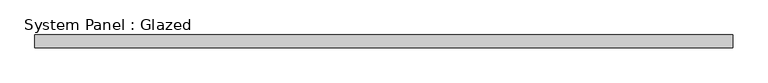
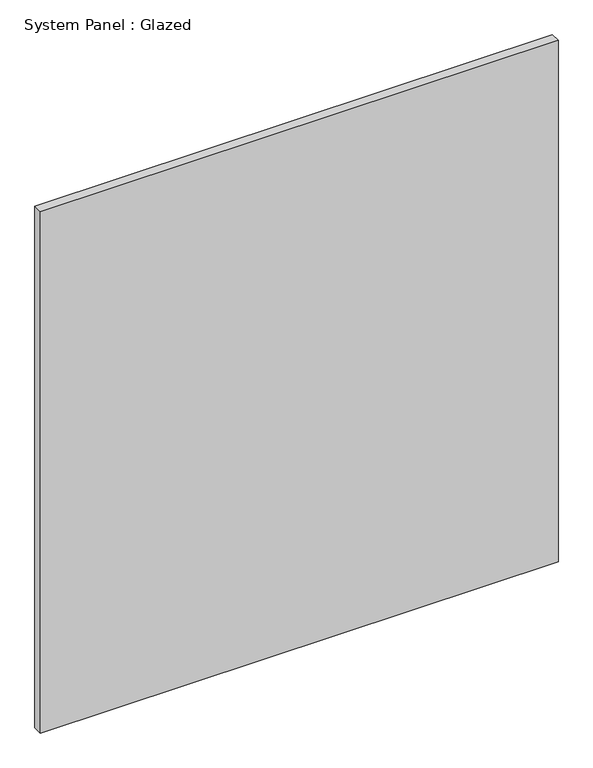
"""IFC4 building model written with IfcOpenShell, lengths in millimetres: plate geometry, System Panel : Glazed."""

import ifcopenshell
import ifcopenshell.guid

model = None  # the IFC model being written
_history = None  # IfcOwnerHistory: only IFC2X3 demands one
_inside = {}  # id of a spatial element -> (the spatial element, [elements in it])
_under = {}  # id of a project, library or spatial element -> (it, [spatial elements below it])
_declared = {}  # id of a project -> (the project, [libraries it declares])
_typed = {}  # id of a type object -> (the type object, [elements of that type])
_made_of = {}  # id of a material, layer set ... -> (it, [elements and type objects made of it])


def new_model(schema):
    """Start an empty IFC model of exactly this schema.

    Asked for "IFC4X3", IfcOpenShell would pick the latest addendum, in which some entities
    have other attributes; the version numbers below select the first issue.
    IFC2X3 requires an IfcOwnerHistory on every rooted entity: one is made here for all.
    """
    global model, _history
    if schema == "IFC4X3":
        model = ifcopenshell.file(schema_version=(4, 3, 0, 0))
    else:
        model = ifcopenshell.file(schema=schema)
    _inside.clear()
    _under.clear()
    _declared.clear()
    _typed.clear()
    _made_of.clear()
    _history = None
    if model.schema == "IFC2X3":
        org = make("IfcOrganization", Name="unknown")
        user = make(
            "IfcPersonAndOrganization",
            ThePerson=make("IfcPerson", FamilyName="unknown"),
            TheOrganization=org,
        )
        app = make(
            "IfcApplication",
            ApplicationDeveloper=org,
            Version="unknown",
            ApplicationFullName="unknown",
            ApplicationIdentifier="unknown",
        )
        _history = make(
            "IfcOwnerHistory",
            OwningUser=user,
            OwningApplication=app,
            ChangeAction="ADDED",
            CreationDate=0,
        )
    return model


def make(cls, **values):
    """One entity of the class cls with the attributes given. An attribute that is None is left unset."""
    return model.create_entity(
        cls, **{name: value for name, value in values.items() if value is not None}
    )


def rooted(cls, **values):
    """An entity with a GlobalId (a new one), such as an element, a storey or a relation."""
    return make(cls, GlobalId=ifcopenshell.guid.new(), OwnerHistory=_history, **values)


def si_unit(unit_type, name, prefix=None):
    """IfcSIUnit, for example si_unit("LENGTHUNIT", "METRE", prefix="MILLI")."""
    return make("IfcSIUnit", UnitType=unit_type, Prefix=prefix, Name=name)


def assignment(units):
    """IfcUnitAssignment: the units of a project."""
    return None if units is None else make("IfcUnitAssignment", Units=units)


def point(xyz):
    """IfcCartesianPoint."""
    return None if xyz is None else make("IfcCartesianPoint", Coordinates=xyz)


def direction(xyz):
    """IfcDirection."""
    return None if xyz is None else make("IfcDirection", DirectionRatios=xyz)


def frame(location, z_axis=None, x_axis=None):
    """IfcAxis2Placement3D, a coordinate frame: its origin and axes. An axis left out is left unset."""
    return make(
        "IfcAxis2Placement3D",
        Location=point(location),
        Axis=direction(z_axis),
        RefDirection=direction(x_axis),
    )


def origin():
    """The frame at (0, 0, 0) with its axes left unset."""
    return frame((0.0, 0.0, 0.0))


def origin_with_axes():
    """The frame at (0, 0, 0) with the z axis (0, 0, 1) and the x axis (1, 0, 0) written out."""
    return frame((0.0, 0.0, 0.0), z_axis=(0.0, 0.0, 1.0), x_axis=(1.0, 0.0, 0.0))


def place(relative_to, where):
    """IfcLocalPlacement: puts the frame where relative to a parent placement (None: the world)."""
    return make(
        "IfcLocalPlacement", PlacementRelTo=relative_to, RelativePlacement=where
    )


def context(
    kind, dimensions, precision=None, world=None, true_north=None, identifier=None
):
    """IfcGeometricRepresentationContext, for example the 3D "Model" context."""
    return make(
        "IfcGeometricRepresentationContext",
        ContextIdentifier=identifier,
        ContextType=kind,
        CoordinateSpaceDimension=dimensions,
        Precision=precision,
        WorldCoordinateSystem=world,
        TrueNorth=true_north,
    )


def project(units=None, contexts=None):
    """IfcProject with its units and contexts."""
    return rooted(
        "IfcProject",
        Name="project",
        RepresentationContexts=contexts,
        UnitsInContext=assignment(units),
    )


def spatial(cls, under=None, at=None, **own):
    """A site, building, storey or space (cls), placed at a placement, below another one or the project."""
    s = rooted(cls, ObjectPlacement=at, **own)
    if under is not None:
        _under.setdefault(under.id(), (under, []))[1].append(s)
    return s


def polyline(points):
    """IfcPolyline through the points."""
    return make("IfcPolyline", Points=[point(p) for p in points])


def outline(outer, holes=None, kind="AREA"):
    """IfcArbitraryClosedProfileDef: a profile drawn as a closed curve; with holes, ...WithVoids."""
    if holes is None:
        return make("IfcArbitraryClosedProfileDef", ProfileType=kind, OuterCurve=outer)
    return make(
        "IfcArbitraryProfileDefWithVoids",
        ProfileType=kind,
        OuterCurve=outer,
        InnerCurves=holes,
    )


def extrude(swept, where, along, depth):
    """IfcExtrudedAreaSolid: the profile swept, set in the frame where, extruded along a direction by depth."""
    return make(
        "IfcExtrudedAreaSolid",
        SweptArea=swept,
        Position=where,
        ExtrudedDirection=direction(along),
        Depth=depth,
    )


def shape(context_of_items, identifier, shape_type, items):
    """IfcShapeRepresentation: the items that make up one representation, for example the "Body"."""
    return make(
        "IfcShapeRepresentation",
        ContextOfItems=context_of_items,
        RepresentationIdentifier=identifier,
        RepresentationType=shape_type,
        Items=items,
    )


def source(mapping_origin, context_of_items, identifier, shape_type, items):
    """IfcRepresentationMap: a shape defined once, which mapped items show again and again."""
    return make(
        "IfcRepresentationMap",
        MappingOrigin=mapping_origin,
        MappedRepresentation=shape(context_of_items, identifier, shape_type, items),
    )


def transform(
    local_origin,
    x_axis=None,
    y_axis=None,
    z_axis=None,
    scale=None,
    scale2=None,
    scale3=None,
    uniform=True,
):
    """IfcCartesianTransformationOperator3D, or its non-uniform kind. x_axis, y_axis, z_axis: its Axis1, 2, 3."""
    if uniform:
        return make(
            "IfcCartesianTransformationOperator3D",
            Axis1=direction(x_axis),
            Axis2=direction(y_axis),
            LocalOrigin=point(local_origin),
            Scale=scale,
            Axis3=direction(z_axis),
        )
    return make(
        "IfcCartesianTransformationOperator3DnonUniform",
        Axis1=direction(x_axis),
        Axis2=direction(y_axis),
        LocalOrigin=point(local_origin),
        Scale=scale,
        Axis3=direction(z_axis),
        Scale2=scale2,
        Scale3=scale3,
    )


def mapped(mapping_source, mapping_target):
    """IfcMappedItem: shows the shape of a source again, moved by a transform."""
    return make(
        "IfcMappedItem", MappingSource=mapping_source, MappingTarget=mapping_target
    )


def made_of(thing, what):
    """Note that an element or type object is made of a material, layer set ...; save() writes the relation."""
    if what is not None:
        _made_of.setdefault(what.id(), (what, []))[1].append(thing)
    return thing


def element(
    cls,
    number,
    at=None,
    inside=None,
    cuts=None,
    type_object=None,
    material=None,
    context=None,
    identifier="Body",
    shape_type=None,
    held_by="IfcProductDefinitionShape",
    body=None,
    shapes=None,
    **own,
):
    """One element of the class cls, such as IfcWall. Its Tag is "e" and its number.

    at: its placement. inside: the storey or other place that contains it. cuts: it is an
    opening in that element (IfcRelVoidsElement). A single representation is given by context,
    identifier, shape_type and body (its items); several are given by shapes. held_by: the class
    of the entity that holds the representations. save() writes the other relations.
    """
    e = rooted(cls, Tag="e%d" % number, ObjectPlacement=at, **own)
    if body is not None:
        shapes = [shape(context, identifier, shape_type, body)]
    if shapes is not None:
        e.Representation = make(held_by, Representations=shapes)
    if inside is not None:
        _inside.setdefault(inside.id(), (inside, []))[1].append(e)
    if cuts is not None:
        rooted(
            "IfcRelVoidsElement", RelatingBuildingElement=cuts, RelatedOpeningElement=e
        )
    if type_object is not None:
        _typed.setdefault(type_object.id(), (type_object, []))[1].append(e)
    return made_of(e, material)


def aggregate(whole, parts):
    """IfcRelAggregates: a whole, such as a stair, and the parts it consists of."""
    return rooted("IfcRelAggregates", RelatingObject=whole, RelatedObjects=parts)


def save(model, path):
    """Write the relations noted so far, then the file.

    IfcRelAggregates (storeys below a building ...), IfcRelContainedInSpatialStructure (elements
    in a storey), IfcRelDefinesByType, IfcRelAssociatesMaterial and IfcRelDeclares: one each for
    every whole, place, type object, material and project.
    """
    for whole, parts in _under.values():
        aggregate(whole, parts)
    for where, things in _inside.values():
        rooted(
            "IfcRelContainedInSpatialStructure",
            RelatedElements=things,
            RelatingStructure=where,
        )
    for kind, things in _typed.values():
        rooted("IfcRelDefinesByType", RelatedObjects=things, RelatingType=kind)
    for what, things in _made_of.values():
        rooted("IfcRelAssociatesMaterial", RelatedObjects=things, RelatingMaterial=what)
    for by, libraries in _declared.values():
        rooted("IfcRelDeclares", RelatingContext=by, RelatedDefinitions=libraries)
    model.write(path)


def system_panel_glazed_f3edbaa5(model_context):
    return source(origin(), model_context, "Body", "SweptSolid", [
        extrude(outline(polyline([(685.7999999, -44.45), (-685.7999999, -44.45), (-685.7999999, -19.05), (685.7999999, -19.05), (685.7999999, -44.45)])), origin_with_axes(), (0.0, 0.0, 1.0), 1460.5),
    ])


if __name__ == "__main__":
    model = new_model("IFC4")
    model_context = context("Model", 3, world=origin())
    ifc_project = project(units=[si_unit("LENGTHUNIT", "METRE", prefix="MILLI")], contexts=[model_context])
    site = spatial("IfcSite", under=ifc_project)
    building = spatial("IfcBuilding", under=site)
    placement = place(None, origin())
    system_panel_glazed_shape = system_panel_glazed_f3edbaa5(model_context)
    element("IfcPlate", 1, ObjectType="System Panel : Glazed", at=placement, inside=building, context=model_context, shape_type="MappedRepresentation", body=[
        mapped(system_panel_glazed_shape, transform((0.0, 0.0, 0.0), x_axis=(1.0, 0.0, 0.0), y_axis=(0.0, 1.0, 0.0), z_axis=(0.0, 0.0, 1.0))),
    ])
    save(model, "model.ifc")
